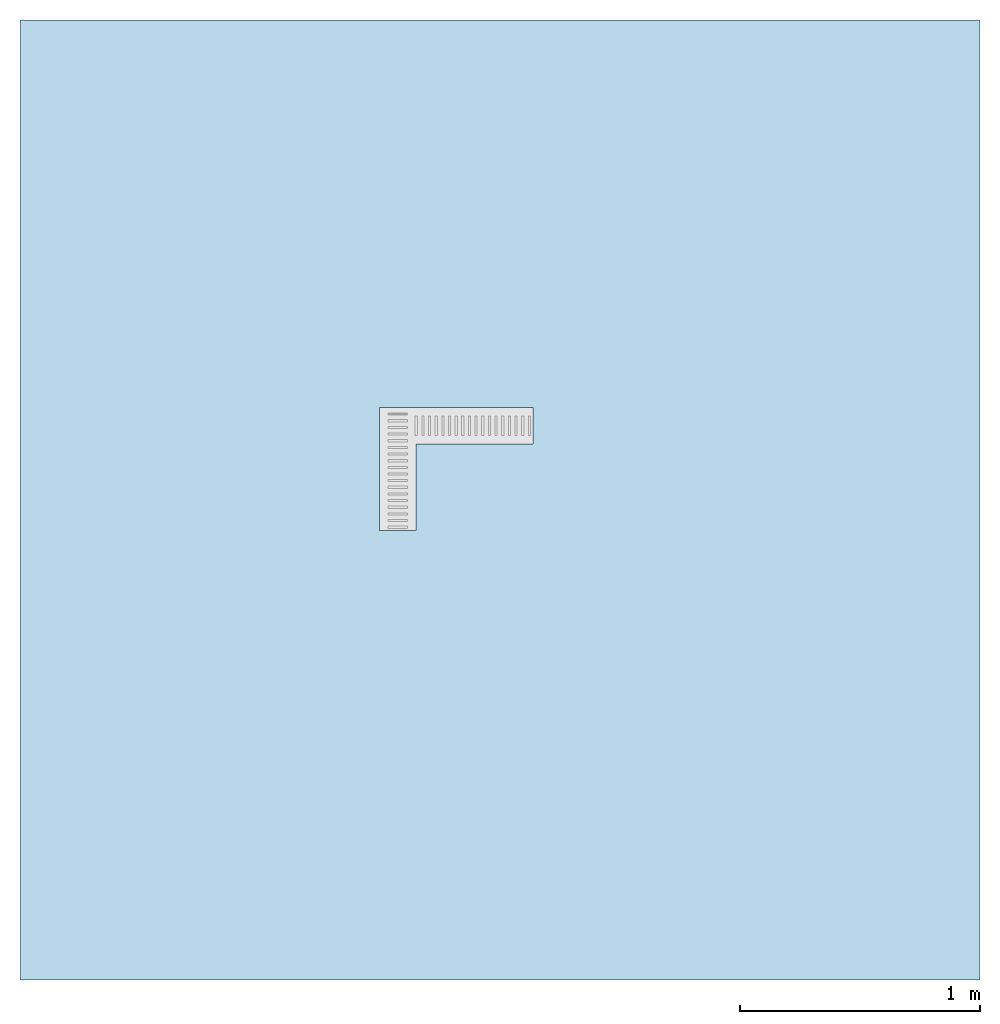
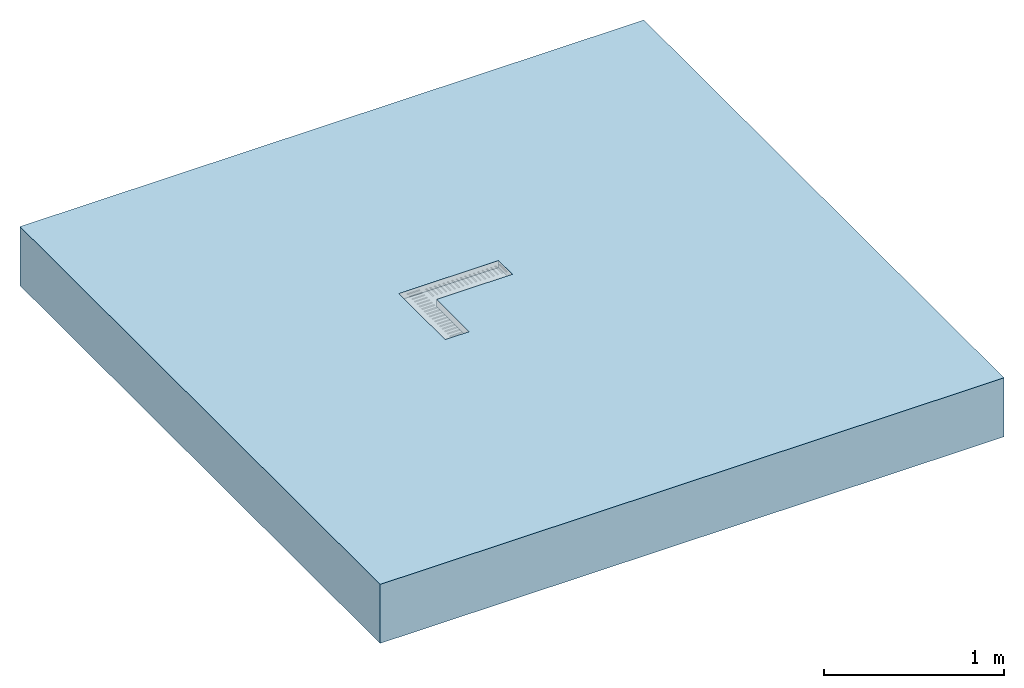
# One storey, incomplete: 1 slab, 1 opening.
"""IFC2X3 building model written with IfcOpenShell, lengths in millimetres."""

from ifc_helpers import new_model, entity, si_unit, converted_unit, direction, frame, frame_2d, origin, place, context, subcontext, project, spatial, polyline, rectangle, outline, extrude, material, layer, layer_set, layer_usage, element, save


model = new_model("IFC2X3")

# Units and contexts
model_context = context("Model", 3, precision=1e-06, world=origin(), true_north=direction((2.0, 6.12303176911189e-17, 1.0)))
context_of_model = context(None, 3, precision=1e-06, world=origin(), true_north=direction((2.0, 6.12303176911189e-17, 1.0)))
body_context = subcontext(model_context, "Body", "Model", "MODEL_VIEW")
ifc_project = project(units=[si_unit("LENGTHUNIT", "METRE", prefix="MILLI"), si_unit("AREAUNIT", "SQUARE_METRE", prefix="MILLI"), si_unit("VOLUMEUNIT", "CUBIC_METRE", prefix="MILLI"), converted_unit("PLANEANGLEUNIT", "DEGREE", entity("IfcRatioMeasure", 0.0174532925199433), si_unit("PLANEANGLEUNIT", "RADIAN"), dimensions=[0, 0, 0, 0, 0, 0, 0]), si_unit("TIMEUNIT", "SECOND")], contexts=[model_context, context_of_model])

# Site, building, storey
site_placement = place(None, origin())
site = spatial("IfcSite", under=ifc_project, at=site_placement, Name="Default", CompositionType="ELEMENT")
building_placement = place(site_placement, origin())
building = spatial("IfcBuilding", under=site, at=building_placement, CompositionType="ELEMENT")
storey_placement = place(building_placement, origin())
storey = spatial("IfcBuildingStorey", under=building, at=storey_placement, Name="Level 1", CompositionType="ELEMENT", Elevation=0.0)

# Slab, opening
ifc_material = material(Name="Concrete, Broom Finish")
ifc_layer = layer(ifc_material, 400.0)
ifc_layer_set = layer_set([ifc_layer], Name="Floor:Generic Floor - 400mm")
ifc_layer_usage = layer_usage(ifc_layer_set, "AXIS3", "POSITIVE", 0.0)
slab_placement = place(storey_placement, origin())
slab = element("IfcSlab", 1, at=slab_placement, inside=storey, material=ifc_layer_usage, Name="Floor:Generic Floor - 400mm", ObjectType="Floor:Generic Floor - 400mm", PredefinedType="FLOOR", context=body_context, shape_type="SweptSolid", body=[
    extrude(rectangle(XDim=4000.0, YDim=4000.0, at=frame_2d((0.0, 0.0), x_axis=(0.0, -1.0))), frame((-42.176138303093, 0.318612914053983, 0.0), z_axis=(0.0, 0.0, -1.0), x_axis=(-1.0, 0.0, 0.0)), (0.0, 0.0, 1.0), 400.0),
])
opening_placement = place(slab_placement, origin())
element("IfcOpeningElement", 2, at=opening_placement, cuts=slab, ObjectType="Recess", context=body_context, shape_type="SweptSolid", body=[
    extrude(outline(polyline([(-375.000465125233, -222.333620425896), (264.000191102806, -222.333620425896), (264.000191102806, 291.667323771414), (111.000274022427, 291.667323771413), (111.000274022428, -69.3337033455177), (-375.000465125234, -69.3337033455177), (-375.000465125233, -222.333620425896)])), frame((-280.472587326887, 164.170542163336, -46.8050825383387), z_axis=(0.0, 0.0, 1.0), x_axis=(-1.0, 0.0, 0.0)), (0.0, 0.0, 1.0), 46.8050825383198),
])

save(model, "model.ifc")
